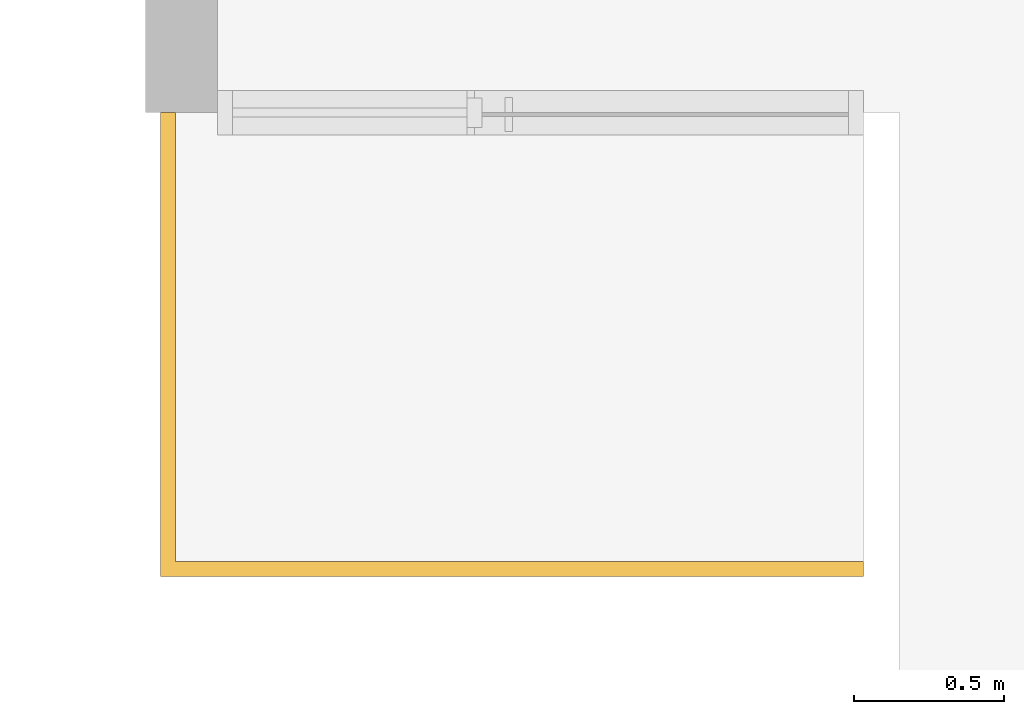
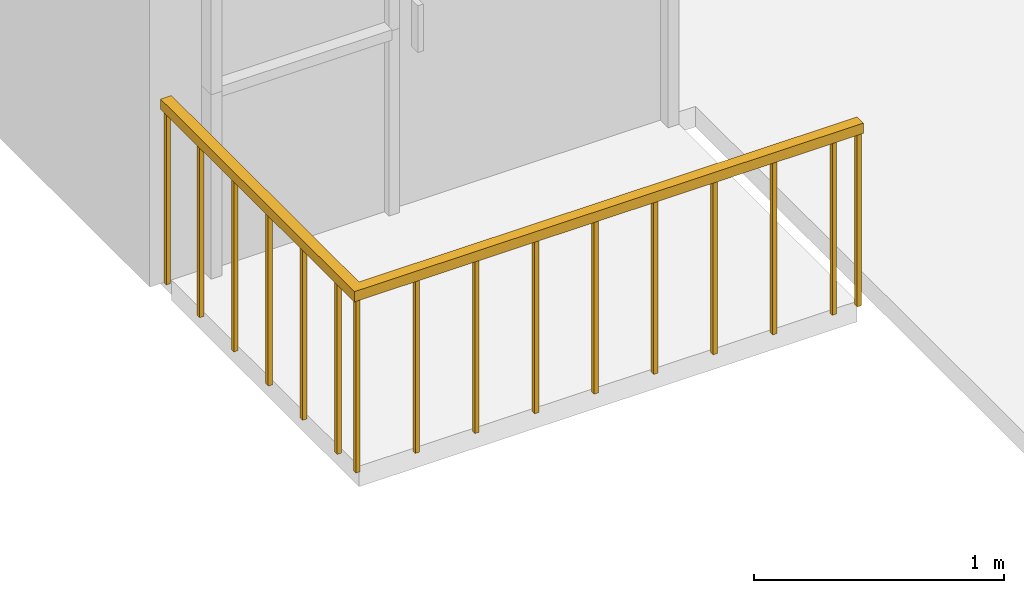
# One storey, part 14 of 16: 1 railing.
"""IFC2X3 building model written with IfcOpenShell, lengths in millimetres."""

from ifc_helpers import new_model, entity, si_unit, converted_unit, derived_unit, direction, frame, origin, place, context, subcontext, project, spatial, faceted_brep, material, element, save


model = new_model("IFC2X3")

# Units and contexts
model_context = context("Model", 3, precision=0.01, world=origin(), true_north=direction((6.12303176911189e-17, 1.0)))
body_context = subcontext(model_context, "Body", "Model", "MODEL_VIEW")
ifc_project = project(units=[si_unit("LENGTHUNIT", "METRE", prefix="MILLI"), si_unit("AREAUNIT", "SQUARE_METRE"), si_unit("VOLUMEUNIT", "CUBIC_METRE"), converted_unit("PLANEANGLEUNIT", "DEGREE", entity("IfcRatioMeasure", 0.0174532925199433), si_unit("PLANEANGLEUNIT", "RADIAN"), dimensions=[0, 0, 0, 0, 0, 0, 0]), si_unit("MASSUNIT", "GRAM", prefix="KILO"), derived_unit("MASSDENSITYUNIT", [(si_unit("MASSUNIT", "GRAM", prefix="KILO"), 1), (si_unit("LENGTHUNIT", "METRE"), -3)]), si_unit("TIMEUNIT", "SECOND"), si_unit("FREQUENCYUNIT", "HERTZ"), si_unit("THERMODYNAMICTEMPERATUREUNIT", "DEGREE_CELSIUS"), derived_unit("THERMALTRANSMITTANCEUNIT", [(si_unit("MASSUNIT", "GRAM", prefix="KILO"), 1), (si_unit("THERMODYNAMICTEMPERATUREUNIT", "KELVIN"), -1), (si_unit("TIMEUNIT", "SECOND"), -3)]), derived_unit("VOLUMETRICFLOWRATEUNIT", [(si_unit("LENGTHUNIT", "METRE"), 3), (si_unit("TIMEUNIT", "SECOND"), -1)]), si_unit("ELECTRICCURRENTUNIT", "AMPERE"), si_unit("ELECTRICVOLTAGEUNIT", "VOLT"), si_unit("POWERUNIT", "WATT"), si_unit("FORCEUNIT", "NEWTON", prefix="KILO"), si_unit("ILLUMINANCEUNIT", "LUX"), si_unit("LUMINOUSFLUXUNIT", "LUMEN"), si_unit("LUMINOUSINTENSITYUNIT", "CANDELA"), derived_unit("USERDEFINED", [(si_unit("MASSUNIT", "GRAM", prefix="KILO"), -1), (si_unit("LENGTHUNIT", "METRE"), -2), (si_unit("TIMEUNIT", "SECOND"), 3), (si_unit("LUMINOUSFLUXUNIT", "LUMEN"), 1)]), derived_unit("LINEARVELOCITYUNIT", [(si_unit("LENGTHUNIT", "METRE"), 1), (si_unit("TIMEUNIT", "SECOND"), -1)]), si_unit("PRESSUREUNIT", "PASCAL"), derived_unit("USERDEFINED", [(si_unit("LENGTHUNIT", "METRE"), -2), (si_unit("MASSUNIT", "GRAM", prefix="KILO"), 1), (si_unit("TIMEUNIT", "SECOND"), -2)])], contexts=[model_context])

# Site, building, storey
site_placement = place(None, origin())
site = spatial("IfcSite", under=ifc_project, at=site_placement, Name="表面", CompositionType="ELEMENT")
building_placement = place(site_placement, origin())
building = spatial("IfcBuilding", under=site, at=building_placement, CompositionType="ELEMENT")
storey_placement = place(building_placement, frame((0.0, 0.0, 3000.0)))
storey = spatial("IfcBuildingStorey", under=building, at=storey_placement, Name="2F", CompositionType="ELEMENT", Elevation=3000.00000000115)

# Railing
ifc_material = material(Name="不锈钢")
railing_placement = place(storey_placement, frame((-14500.2499126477, -30966.868426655, 0.0)))
element("IfcRailing", 1, at=railing_placement, inside=storey, material=ifc_material, Name="栏杆扶手:900mm", ObjectType="栏杆扶手:900mm", PredefinedType="NOTDEFINED", context=body_context, shape_type="Brep", body=[
    faceted_brep([(2215.0, 35.0, 850.0), (2215.0, 35.0, 0.0), (2215.0, 15.0, 0.0), (2215.0, 15.0, 850.0), (2235.0, 15.0, 0.0), (2235.0, 15.0, 850.0), (2235.0, 35.0, 0.0), (2235.0, 35.0, 850.0)], [[[0, 1, 2, 3]], [[3, 2, 4, 5]], [[5, 4, 6, 7]], [[1, 0, 7, 6]], [[0, 3, 5, 7]], [[2, 1, 6, 4]]]),
    faceted_brep([(1940.0, 35.0, 850.0), (1940.0, 35.0, 0.0), (1940.0, 15.0, 0.0), (1940.0, 15.0, 850.0), (1960.0, 15.0, 0.0), (1960.0, 15.0, 850.0), (1960.0, 35.0, 0.0), (1960.0, 35.0, 850.0)], [[[0, 1, 2, 3]], [[3, 2, 4, 5]], [[5, 4, 6, 7]], [[1, 0, 7, 6]], [[0, 3, 5, 7]], [[2, 1, 6, 4]]]),
    faceted_brep([(1665.0, 35.0, 850.0), (1665.0, 35.0, 0.0), (1665.0, 15.0, 0.0), (1665.0, 15.0, 850.0), (1685.0, 15.0, 0.0), (1685.0, 15.0, 850.0), (1685.0, 35.0, 0.0), (1685.0, 35.0, 850.0)], [[[0, 1, 2, 3]], [[3, 2, 4, 5]], [[5, 4, 6, 7]], [[1, 0, 7, 6]], [[0, 3, 5, 7]], [[2, 1, 6, 4]]]),
    faceted_brep([(1390.0, 35.0, 850.0), (1390.0, 35.0, 0.0), (1390.0, 15.0, 0.0), (1390.0, 15.0, 850.0), (1410.0, 15.0, 0.0), (1410.0, 15.0, 850.0), (1410.0, 35.0, 0.0), (1410.0, 35.0, 850.0)], [[[0, 1, 2, 3]], [[3, 2, 4, 5]], [[5, 4, 6, 7]], [[1, 0, 7, 6]], [[0, 3, 5, 7]], [[2, 1, 6, 4]]]),
    faceted_brep([(1115.0, 35.0, 850.0), (1115.0, 35.0, 0.0), (1115.0, 15.0, 0.0), (1115.0, 15.0, 850.0), (1135.0, 15.0, 0.0), (1135.0, 15.0, 850.0), (1135.0, 35.0, 0.0), (1135.0, 35.0, 850.0)], [[[0, 1, 2, 3]], [[3, 2, 4, 5]], [[5, 4, 6, 7]], [[1, 0, 7, 6]], [[0, 3, 5, 7]], [[2, 1, 6, 4]]]),
    faceted_brep([(840.0, 35.0, 850.0), (840.0, 35.0, 0.0), (840.0, 15.0, 0.0), (840.0, 15.0, 850.0), (860.0, 15.0, 0.0), (860.0, 15.0, 850.0), (860.0, 35.0, 0.0), (860.0, 35.0, 850.0)], [[[0, 1, 2, 3]], [[3, 2, 4, 5]], [[5, 4, 6, 7]], [[1, 0, 7, 6]], [[0, 3, 5, 7]], [[2, 1, 6, 4]]]),
    faceted_brep([(565.0, 35.0, 850.0), (565.0, 35.0, 0.0), (565.0, 15.0, 0.0), (565.0, 15.0, 850.0), (585.0, 15.0, 0.0), (585.0, 15.0, 850.0), (585.0, 35.0, 0.0), (585.0, 35.0, 850.0)], [[[0, 1, 2, 3]], [[3, 2, 4, 5]], [[5, 4, 6, 7]], [[1, 0, 7, 6]], [[0, 3, 5, 7]], [[2, 1, 6, 4]]]),
    faceted_brep([(290.0, 35.0, 850.0), (290.0, 35.0, 0.0), (290.0, 15.0, 0.0), (290.0, 15.0, 850.0), (310.0, 15.0, 0.0), (310.0, 15.0, 850.0), (310.0, 35.0, 0.0), (310.0, 35.0, 850.0)], [[[0, 1, 2, 3]], [[3, 2, 4, 5]], [[5, 4, 6, 7]], [[1, 0, 7, 6]], [[0, 3, 5, 7]], [[2, 1, 6, 4]]]),
    faceted_brep([(35.0, 185.0, 850.0), (35.0, 185.0, 0.0), (15.0, 185.0, 0.0), (15.0, 185.0, 850.0), (15.0, 165.0, 0.0), (15.0, 165.0, 850.0), (35.0, 165.0, 0.0), (35.0, 165.0, 850.0)], [[[0, 1, 2, 3]], [[3, 2, 4, 5]], [[5, 4, 6, 7]], [[1, 0, 7, 6]], [[0, 3, 5, 7]], [[2, 1, 6, 4]]]),
    faceted_brep([(35.0, 460.0, 850.0), (35.0, 460.0, 0.0), (15.0, 460.0, 0.0), (15.0, 460.0, 850.0), (15.0, 440.0, 0.0), (15.0, 440.0, 850.0), (35.0, 440.0, 0.0), (35.0, 440.0, 850.0)], [[[0, 1, 2, 3]], [[3, 2, 4, 5]], [[5, 4, 6, 7]], [[1, 0, 7, 6]], [[0, 3, 5, 7]], [[2, 1, 6, 4]]]),
    faceted_brep([(35.0, 735.0, 850.0), (35.0, 735.0, 0.0), (15.0, 735.0, 0.0), (15.0, 735.0, 850.0), (15.0, 715.0, 0.0), (15.0, 715.0, 850.0), (35.0, 715.0, 0.0), (35.0, 715.0, 850.0)], [[[0, 1, 2, 3]], [[3, 2, 4, 5]], [[5, 4, 6, 7]], [[1, 0, 7, 6]], [[0, 3, 5, 7]], [[2, 1, 6, 4]]]),
    faceted_brep([(35.0, 1010.0, 850.0), (35.0, 1010.0, 0.0), (15.0, 1010.0, 0.0), (15.0, 1010.0, 850.0), (15.0, 990.0, 0.0), (15.0, 990.0, 850.0), (35.0, 990.0, 0.0), (35.0, 990.0, 850.0)], [[[0, 1, 2, 3]], [[3, 2, 4, 5]], [[5, 4, 6, 7]], [[1, 0, 7, 6]], [[0, 3, 5, 7]], [[2, 1, 6, 4]]]),
    faceted_brep([(35.0, 1285.0, 850.0), (35.0, 1285.0, 0.0), (15.0, 1285.0, 0.0), (15.0, 1285.0, 850.0), (15.0, 1265.0, 0.0), (15.0, 1265.0, 850.0), (35.0, 1265.0, 0.0), (35.0, 1265.0, 850.0)], [[[0, 1, 2, 3]], [[3, 2, 4, 5]], [[5, 4, 6, 7]], [[1, 0, 7, 6]], [[0, 3, 5, 7]], [[2, 1, 6, 4]]]),
    faceted_brep([(35.0, 35.0, 850.0), (35.0, 35.0, 0.0), (15.0, 35.0, 0.0), (15.0, 35.0, 850.0), (15.0, 15.0, 0.0), (15.0, 15.0, 850.0), (35.0, 15.0, 0.0), (35.0, 15.0, 850.0)], [[[0, 1, 2, 3]], [[3, 2, 4, 5]], [[5, 4, 6, 7]], [[1, 0, 7, 6]], [[0, 3, 5, 7]], [[2, 1, 6, 4]]]),
    faceted_brep([(2330.0, 35.0, 850.0), (2330.0, 35.0, 0.0), (2330.0, 15.0, 0.0), (2330.0, 15.0, 850.0), (2350.0, 15.0, 0.0), (2350.0, 15.0, 850.0), (2350.0, 35.0, 0.0), (2350.0, 35.0, 850.0)], [[[0, 1, 2, 3]], [[3, 2, 4, 5]], [[5, 4, 6, 7]], [[1, 0, 7, 6]], [[0, 3, 5, 7]], [[2, 1, 6, 4]]]),
    faceted_brep([(35.0, 1550.0, 850.0), (35.0, 1550.0, 0.0), (15.0, 1550.0, 0.0), (15.0, 1550.0, 850.0), (15.0, 1530.0, 0.0), (15.0, 1530.0, 850.0), (35.0, 1530.0, 0.0), (35.0, 1530.0, 850.0)], [[[0, 1, 2, 3]], [[3, 2, 4, 5]], [[5, 4, 6, 7]], [[1, 0, 7, 6]], [[0, 3, 5, 7]], [[2, 1, 6, 4]]]),
    faceted_brep([(0.0, 1550.0, 900.0), (50.0, 1550.0, 900.0), (50.0, 1550.0, 850.0), (0.0, 1550.0, 850.0), (0.0, 0.0, 900.0), (50.0, 50.0, 900.0), (50.0, 50.0, 850.0), (0.0, 0.0, 850.0), (2350.0, 0.0, 900.0), (2350.0, 0.0, 850.0), (2350.0, 50.0, 850.0), (2350.0, 50.0, 900.0)], [[[0, 1, 2, 3]], [[1, 0, 4, 5]], [[2, 1, 5, 6]], [[3, 2, 6, 7]], [[0, 3, 7, 4]], [[8, 9, 10, 11]], [[5, 4, 8, 11]], [[6, 5, 11, 10]], [[7, 6, 10, 9]], [[4, 7, 9, 8]]]),
])

save(model, "model.ifc")
